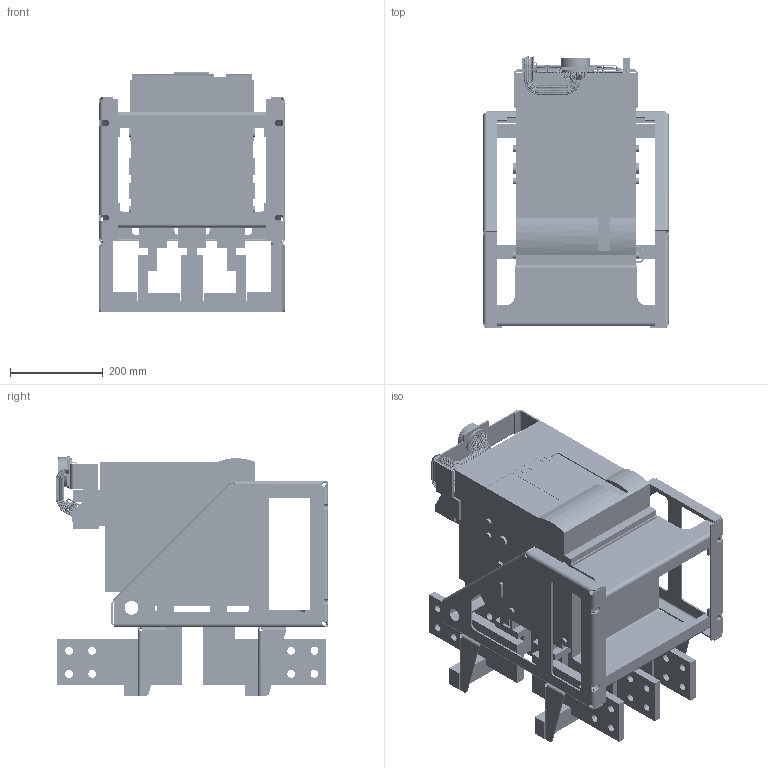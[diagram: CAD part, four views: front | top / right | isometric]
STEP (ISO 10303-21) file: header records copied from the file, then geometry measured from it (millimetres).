
FILE_DESCRIPTION (( 'STEP AP214' ), '1' );
FILE_NAME ('Ýëåêòðîí Ý25Ñ Ïðî_defeature.STEP', '2022-07-01T10:31:01', ( '' ), ( '' ), 'SwSTEP 2.0', 'SolidWorks 2018', '' );
FILE_SCHEMA (( 'AUTOMOTIVE_DESIGN' ));
Length unit declared in the file: millimetre
Products named in the file (1): Ýëåêòðîí Ý25Ñ Ïðî_defeature
Bounding box: 400.43 x 586.87 x 520.35 mm (x, y, z)
Volume: 36078650.2 mm3; surface area: 2417760.3 mm2
Topology: 15 solids, 15 shells, 3990 faces, 9566 edges, 5609 vertices
Faces by surface type: bspline 2236, plane 1138, cylinder 524, torus 90, cone 2
Full cylindrical faces by diameter (mm): 13 x1, 14 x12, 17 x25, 24 x2
Entity records: 328220 total; most frequent: CARTESIAN_POINT 236375, ORIENTED_EDGE 18874, DIRECTION 11120, EDGE_CURVE 9437, VERTEX_POINT 5570, EDGE_LOOP 4449, VECTOR 4160, LINE 4160
